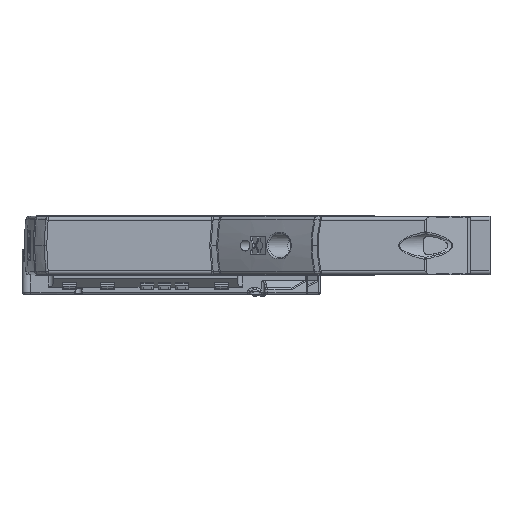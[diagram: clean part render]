
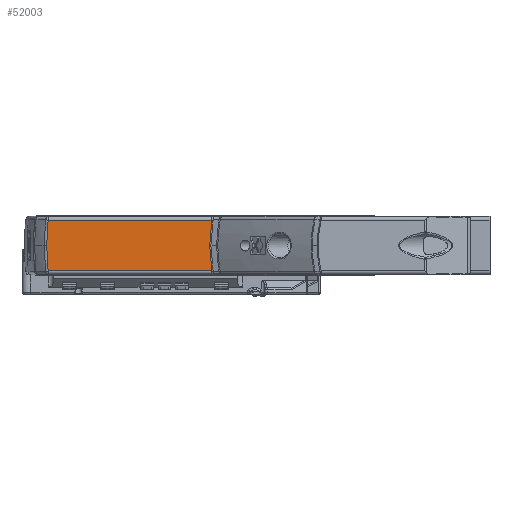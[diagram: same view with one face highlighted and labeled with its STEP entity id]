
A CAD part, left-side view. The second image highlights one B-rep face of the part: STEP entity #52003.
In plain terms, the highlighted planar face has unit normal (-1, 0, 0).
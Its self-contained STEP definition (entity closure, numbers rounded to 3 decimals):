
#16203=DIRECTION('',(0.,-1.,0.));
#16204=VECTOR('',#16203,34.465);
#16205=CARTESIAN_POINT('',(-26.,86.504,-5.35));
#16206=LINE('',#16205,#16204);
#16207=CARTESIAN_POINT('',(-26.,86.811,0.));
#16208=CARTESIAN_POINT('',(-26.,86.811,-0.596));
#16209=CARTESIAN_POINT('',(-26.,86.788,
-1.787));
#16210=CARTESIAN_POINT('',(-26.,86.686,
-3.572));
#16211=CARTESIAN_POINT('',(-26.,86.572,
-4.758));
#16212=CARTESIAN_POINT('',(-26.,86.504,-5.35));
#16214=CARTESIAN_POINT('',(-26.,86.504,5.35));
#16215=CARTESIAN_POINT('',(-26.,86.572,4.758));
#16216=CARTESIAN_POINT('',(-26.,86.686,3.572));
#16217=CARTESIAN_POINT('',(-26.,86.788,1.787));
#16218=CARTESIAN_POINT('',(-26.,86.811,0.596));
#16219=CARTESIAN_POINT('',(-26.,86.811,0.));
#16221=DIRECTION('',(0.,1.,0.));
#16222=VECTOR('',#16221,34.465);
#16223=CARTESIAN_POINT('',(-26.,52.039,
5.35));
#16224=LINE('',#16223,#16222);
#16225=CARTESIAN_POINT('',(-26.,52.039,
5.35));
#16226=CARTESIAN_POINT('',(-26.,52.1,
4.993));
#16227=CARTESIAN_POINT('',(-26.,52.211,
4.279));
#16228=CARTESIAN_POINT('',(-26.,52.339,
3.208));
#16229=CARTESIAN_POINT('',(-26.,52.431,
2.139));
#16230=CARTESIAN_POINT('',(-26.,52.486,
1.069));
#16231=CARTESIAN_POINT('',(-26.,52.498,
0.356));
#16232=CARTESIAN_POINT('',(-26.,52.498,0.));
#16234=CARTESIAN_POINT('',(-26.,52.498,0.));
#16235=CARTESIAN_POINT('',(-26.,52.498,
-0.357));
#16236=CARTESIAN_POINT('',(-26.,52.486,
-1.069));
#16237=CARTESIAN_POINT('',(-26.,52.431,
-2.139));
#16238=CARTESIAN_POINT('',(-26.,52.339,
-3.208));
#16239=CARTESIAN_POINT('',(-26.,52.211,
-4.279));
#16240=CARTESIAN_POINT('',(-26.,52.1,
-4.993));
#16241=CARTESIAN_POINT('',(-26.,52.039,
-5.35));
#16253=CARTESIAN_POINT('',(-26.,52.039,
-5.35));
#25762=CARTESIAN_POINT('',(-26.,52.039,
5.35));
#25763=CARTESIAN_POINT('',(-26.,86.504,5.35));
#25764=VERTEX_POINT('',#25762);
#25765=VERTEX_POINT('',#25763);
#25778=CARTESIAN_POINT('',(-26.,86.811,0.));
#25779=VERTEX_POINT('',#25778);
#25784=CARTESIAN_POINT('',(-26.,52.498,0.));
#25785=VERTEX_POINT('',#25784);
#25812=VERTEX_POINT('',#16253);
#25814=CARTESIAN_POINT('',(-26.,86.504,-5.35));
#25815=VERTEX_POINT('',#25814);
#51986=CARTESIAN_POINT('',(-26.,46.22,-7.99));
#51987=DIRECTION('',(1.,0.,0.));
#51988=DIRECTION('',(0.,1.,0.));
#51989=AXIS2_PLACEMENT_3D('',#51986,#51987,#51988);
#51990=PLANE('',#51989);
#51992=ORIENTED_EDGE('',*,*,#51991,.F.);
#51994=ORIENTED_EDGE('',*,*,#51993,.F.);
#51995=ORIENTED_EDGE('',*,*,#51952,.F.);
#51996=ORIENTED_EDGE('',*,*,#51977,.F.);
#51998=ORIENTED_EDGE('',*,*,#51997,.T.);
#52000=ORIENTED_EDGE('',*,*,#51999,.T.);
#52001=EDGE_LOOP('',(#51992,#51994,#51995,#51996,#51998,#52000));
#52002=FACE_OUTER_BOUND('',#52001,.F.);
#16213=B_SPLINE_CURVE_WITH_KNOTS('',3,(#16207,#16208,#16209,#16210,#16211,
#16212),.UNSPECIFIED.,.F.,.F.,(4,1,1,4),(0.,0.333,
0.667,1.),.UNSPECIFIED.);
#16220=B_SPLINE_CURVE_WITH_KNOTS('',3,(#16214,#16215,#16216,#16217,#16218,
#16219),.UNSPECIFIED.,.F.,.F.,(4,1,1,4),(0.,0.333,
0.667,1.),.UNSPECIFIED.);
#16233=B_SPLINE_CURVE_WITH_KNOTS('',3,(#16225,#16226,#16227,#16228,#16229,
#16230,#16231,#16232),.UNSPECIFIED.,.F.,.F.,(4,1,1,1,1,4),(0.,0.2,0.4,
0.6,0.8,1.),.UNSPECIFIED.);
#16242=B_SPLINE_CURVE_WITH_KNOTS('',3,(#16234,#16235,#16236,#16237,#16238,
#16239,#16240,#16241),.UNSPECIFIED.,.F.,.F.,(4,1,1,1,1,4),(0.,0.2,0.4,
0.6,0.8,1.),.UNSPECIFIED.);
#51952=EDGE_CURVE('',#25765,#25779,#16220,.T.);
#51977=EDGE_CURVE('',#25764,#25765,#16224,.T.);
#51991=EDGE_CURVE('',#25815,#25812,#16206,.T.);
#51993=EDGE_CURVE('',#25779,#25815,#16213,.T.);
#51997=EDGE_CURVE('',#25764,#25785,#16233,.T.);
#51999=EDGE_CURVE('',#25785,#25812,#16242,.T.);
#52003=ADVANCED_FACE('',(#52002),#51990,.F.);
